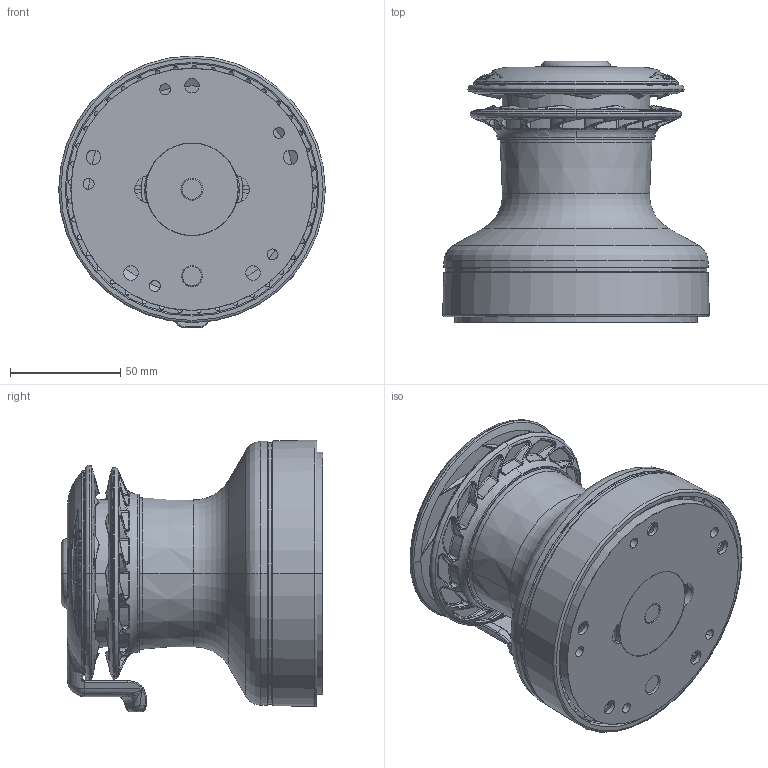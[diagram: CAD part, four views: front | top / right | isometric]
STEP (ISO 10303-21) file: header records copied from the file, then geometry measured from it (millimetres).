
FILE_DESCRIPTION((''),'2;1');
FILE_NAME('X_OEM_15_01_SW0004','2010-02-01T',('RFields'),(''),'PRO/ENGINEER BY PARAMETRIC TECHNOLOGY CORPORATION, 2007030','PRO/ENGINEER BY PARAMETRIC TECHNOLOGY CORPORATION, 2007030','');
FILE_SCHEMA(('CONFIG_CONTROL_DESIGN'));
Length unit declared in the file: millimetre
Products named in the file (1): X_OEM_15_01_SW0004
Bounding box: 120.95 x 118.72 x 123.4 mm (x, y, z)
Volume: 501078.8 mm3; surface area: 207013.7 mm2
Topology: 2 solids, 2 shells, 3785 faces, 10313 edges, 6585 vertices
Faces by surface type: plane 1019, cylinder 776, bspline 721, cone 530, torus 430, extrusion 290, sphere 19
Entity records: 162231 total; most frequent: CARTESIAN_POINT 74565, ORIENTED_EDGE 20610, DIRECTION 15203, EDGE_CURVE 10305, VERTEX_POINT 6585, AXIS2_PLACEMENT_3D 6014, B_SPLINE_CURVE_WITH_KNOTS 4470, EDGE_LOOP 3954
